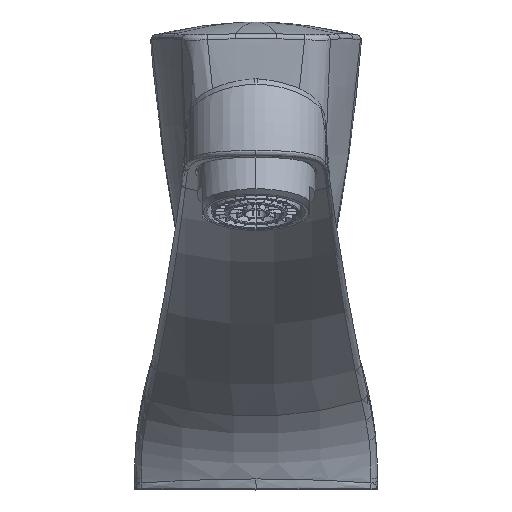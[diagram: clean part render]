
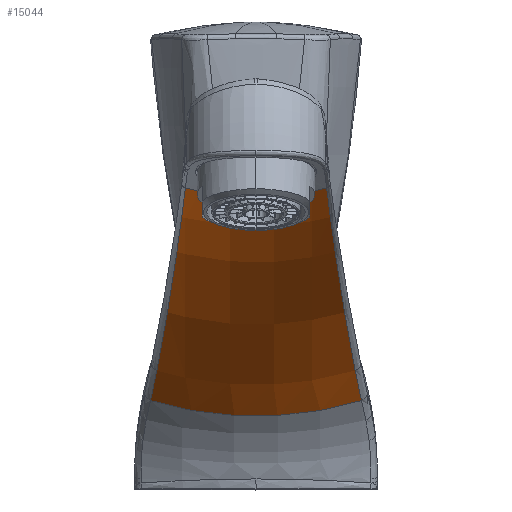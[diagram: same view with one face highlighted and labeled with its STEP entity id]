
A CAD part, top view. The second image highlights one B-rep face of the part: STEP entity #15044.
In plain terms, the highlighted toroidal (fillet/blend) face has major radius 255 mm and minor radius 54.4 mm.
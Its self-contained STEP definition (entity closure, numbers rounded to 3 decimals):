
#1952=CARTESIAN_POINT('',(-7.52,-54.002,0.));
#1953=DIRECTION('',(0.718,-0.696,0.));
#1954=DIRECTION('',(0.64,0.659,-0.395));
#1955=AXIS2_PLACEMENT_3D('',#1952,#1953,#1954);
#3593=CARTESIAN_POINT('',(101.359,-59.738,5.268));
#3594=CARTESIAN_POINT('',(101.194,-59.636,4.866));
#3595=CARTESIAN_POINT('',(100.896,-59.45,4.031));
#3596=CARTESIAN_POINT('',(100.563,-59.237,2.675));
#3597=CARTESIAN_POINT('',(100.371,-59.113,1.29));
#3598=CARTESIAN_POINT('',(100.334,-59.089,
0.422));
#3599=CARTESIAN_POINT('',(100.334,-59.089,0.));
#3601=CARTESIAN_POINT('',(82.841,-110.617,0.));
#3602=DIRECTION('',(0.94,-0.342,0.));
#3603=DIRECTION('',(0.34,0.935,0.097));
#3604=AXIS2_PLACEMENT_3D('',#3601,#3602,#3603);
#3606=CARTESIAN_POINT('',(34.643,-24.223,20.198));
#3607=CARTESIAN_POINT('',(35.735,-25.098,20.03));
#3608=CARTESIAN_POINT('',(38.034,-26.908,19.68));
#3609=CARTESIAN_POINT('',(41.797,-29.763,19.154));
#3610=CARTESIAN_POINT('',(46.015,-32.828,18.602));
#3611=CARTESIAN_POINT('',(50.638,-36.028,18.046));
#3612=CARTESIAN_POINT('',(55.669,-39.329,17.496));
#3613=CARTESIAN_POINT('',(61.159,-42.724,16.955));
#3614=CARTESIAN_POINT('',(67.198,-46.217,16.423));
#3615=CARTESIAN_POINT('',(73.755,-49.728,15.916));
#3616=CARTESIAN_POINT('',(80.409,-53.003,15.463));
#3617=CARTESIAN_POINT('',(87.122,-56.03,15.061));
#3618=CARTESIAN_POINT('',(93.915,-58.816,14.7));
#3619=CARTESIAN_POINT('',(98.488,-60.511,14.486));
#3620=CARTESIAN_POINT('',(100.785,-61.317,14.383));
#3622=CARTESIAN_POINT('',(27.28,-18.138,21.496));
#3623=CARTESIAN_POINT('',(28.004,-18.759,21.358));
#3624=CARTESIAN_POINT('',(29.397,-19.932,21.09));
#3625=CARTESIAN_POINT('',(31.275,-21.492,20.753));
#3626=CARTESIAN_POINT('',(33.021,-22.918,20.454));
#3627=CARTESIAN_POINT('',(34.115,-23.8,20.279));
#3628=CARTESIAN_POINT('',(34.643,-24.223,20.198));
#3630=CARTESIAN_POINT('',(27.28,-18.138,
-21.496));
#3631=CARTESIAN_POINT('',(28.004,-18.759,
-21.358));
#3632=CARTESIAN_POINT('',(29.397,-19.932,
-21.09));
#3633=CARTESIAN_POINT('',(31.275,-21.492,
-20.753));
#3634=CARTESIAN_POINT('',(33.021,-22.918,
-20.454));
#3635=CARTESIAN_POINT('',(34.115,-23.8,
-20.279));
#3636=CARTESIAN_POINT('',(34.643,-24.223,
-20.198));
#3638=CARTESIAN_POINT('',(34.643,-24.223,
-20.198));
#3639=CARTESIAN_POINT('',(35.735,-25.098,
-20.03));
#3640=CARTESIAN_POINT('',(38.034,-26.908,
-19.68));
#3641=CARTESIAN_POINT('',(41.797,-29.763,
-19.154));
#3642=CARTESIAN_POINT('',(46.015,-32.828,
-18.602));
#3643=CARTESIAN_POINT('',(50.638,-36.028,
-18.046));
#3644=CARTESIAN_POINT('',(55.669,-39.329,
-17.496));
#3645=CARTESIAN_POINT('',(61.159,-42.724,
-16.955));
#3646=CARTESIAN_POINT('',(67.198,-46.217,
-16.423));
#3647=CARTESIAN_POINT('',(73.755,-49.728,
-15.916));
#3648=CARTESIAN_POINT('',(80.409,-53.003,
-15.463));
#3649=CARTESIAN_POINT('',(87.122,-56.03,
-15.061));
#3650=CARTESIAN_POINT('',(93.915,-58.816,
-14.7));
#3651=CARTESIAN_POINT('',(98.488,-60.511,
-14.486));
#3652=CARTESIAN_POINT('',(100.785,-61.317,
-14.383));
#3654=CARTESIAN_POINT('',(82.841,-110.617,0.));
#3655=DIRECTION('',(0.94,-0.342,0.));
#3656=DIRECTION('',(0.33,0.906,-0.264));
#3657=AXIS2_PLACEMENT_3D('',#3654,#3655,#3656);
#3659=CARTESIAN_POINT('',(100.334,-59.089,0.));
#3660=CARTESIAN_POINT('',(100.334,-59.089,
-0.426));
#3661=CARTESIAN_POINT('',(100.372,-59.113,
-1.298));
#3662=CARTESIAN_POINT('',(100.565,-59.238,
-2.68));
#3663=CARTESIAN_POINT('',(100.896,-59.45,
-4.031));
#3664=CARTESIAN_POINT('',(101.194,-59.636,
-4.866));
#3665=CARTESIAN_POINT('',(101.359,-59.738,-5.268));
#3690=CARTESIAN_POINT('',(101.359,-59.738,5.268));
#3692=CARTESIAN_POINT('',(101.359,-59.738,-5.268));
#3714=CARTESIAN_POINT('',(100.785,-61.317,
-14.383));
#3789=CARTESIAN_POINT('',(100.785,-61.317,14.383));
#6559=VERTEX_POINT('',#3690);
#6560=VERTEX_POINT('',#3692);
#6561=VERTEX_POINT('',#3599);
#6715=VERTEX_POINT('',#3789);
#6717=VERTEX_POINT('',#3606);
#6719=VERTEX_POINT('',#3622);
#6744=VERTEX_POINT('',#3714);
#6746=VERTEX_POINT('',#3638);
#6748=VERTEX_POINT('',#3630);
#15021=CARTESIAN_POINT('',(170.056,129.005,0.));
#15022=DIRECTION('',(0.,0.,-1.));
#15023=DIRECTION('',(0.342,0.94,0.));
#15024=AXIS2_PLACEMENT_3D('',#15021,#15022,#15023);
#15025=TOROIDAL_SURFACE('',#15024,255.,54.4);
#15027=ORIENTED_EDGE('',*,*,#15026,.F.);
#15029=ORIENTED_EDGE('',*,*,#15028,.T.);
#15031=ORIENTED_EDGE('',*,*,#15030,.F.);
#15032=ORIENTED_EDGE('',*,*,#15011,.F.);
#15033=ORIENTED_EDGE('',*,*,#11752,.F.);
#15035=ORIENTED_EDGE('',*,*,#15034,.T.);
#15037=ORIENTED_EDGE('',*,*,#15036,.T.);
#15039=ORIENTED_EDGE('',*,*,#15038,.T.);
#15041=ORIENTED_EDGE('',*,*,#15040,.F.);
#15042=EDGE_LOOP('',(#15027,#15029,#15031,#15032,#15033,#15035,#15037,#15039,
#15041));
#15043=FACE_OUTER_BOUND('',#15042,.F.);
#15044=ADVANCED_FACE('',(#15043),#15025,.T.);
#1956=CIRCLE('',#1955,54.4);
#3600=B_SPLINE_CURVE_WITH_KNOTS('',3,(#3593,#3594,#3595,#3596,#3597,#3598,
#3599),.UNSPECIFIED.,.F.,.F.,(4,1,1,1,4),(0.,0.25,0.5,0.75,1.),
.UNSPECIFIED.);
#3605=CIRCLE('',#3604,54.4);
#3621=B_SPLINE_CURVE_WITH_KNOTS('',3,(#3606,#3607,#3608,#3609,#3610,#3611,#3612,
#3613,#3614,#3615,#3616,#3617,#3618,#3619,#3620),.UNSPECIFIED.,.F.,.F.,(4,1,1,1,
1,1,1,1,1,1,1,1,4),(0.,0.083,0.167,0.25,
0.333,0.417,0.5,0.583,0.667,
0.75,0.833,0.917,1.),.UNSPECIFIED.);
#3629=B_SPLINE_CURVE_WITH_KNOTS('',3,(#3622,#3623,#3624,#3625,#3626,#3627,
#3628),.UNSPECIFIED.,.F.,.F.,(4,1,1,1,4),(0.,0.25,0.5,0.75,1.),
.UNSPECIFIED.);
#3637=B_SPLINE_CURVE_WITH_KNOTS('',3,(#3630,#3631,#3632,#3633,#3634,#3635,
#3636),.UNSPECIFIED.,.F.,.F.,(4,1,1,1,4),(0.,0.25,0.5,0.75,1.),
.UNSPECIFIED.);
#3653=B_SPLINE_CURVE_WITH_KNOTS('',3,(#3638,#3639,#3640,#3641,#3642,#3643,#3644,
#3645,#3646,#3647,#3648,#3649,#3650,#3651,#3652),.UNSPECIFIED.,.F.,.F.,(4,1,1,1,
1,1,1,1,1,1,1,1,4),(0.,0.083,0.167,0.25,
0.333,0.417,0.5,0.583,0.667,
0.75,0.833,0.917,1.),.UNSPECIFIED.);
#3658=CIRCLE('',#3657,54.4);
#3666=B_SPLINE_CURVE_WITH_KNOTS('',3,(#3659,#3660,#3661,#3662,#3663,#3664,
#3665),.UNSPECIFIED.,.F.,.F.,(4,1,1,1,4),(0.,0.25,0.5,0.75,1.),
.UNSPECIFIED.);
#11752=EDGE_CURVE('',#6748,#6719,#1956,.T.);
#15011=EDGE_CURVE('',#6719,#6717,#3629,.T.);
#15026=EDGE_CURVE('',#6559,#6561,#3600,.T.);
#15028=EDGE_CURVE('',#6559,#6715,#3605,.T.);
#15030=EDGE_CURVE('',#6717,#6715,#3621,.T.);
#15034=EDGE_CURVE('',#6748,#6746,#3637,.T.);
#15036=EDGE_CURVE('',#6746,#6744,#3653,.T.);
#15038=EDGE_CURVE('',#6744,#6560,#3658,.T.);
#15040=EDGE_CURVE('',#6561,#6560,#3666,.T.);
